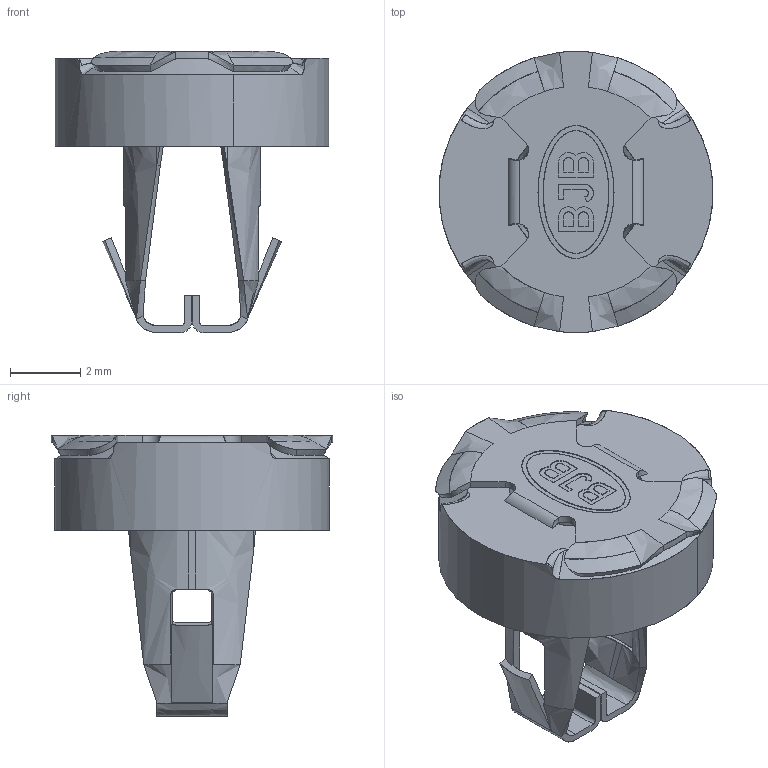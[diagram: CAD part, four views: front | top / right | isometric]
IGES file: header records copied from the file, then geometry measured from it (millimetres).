
Global section: file name: C:\coretechnologie2012\in/01VY712Y02.igs; native system: CT CoreTechnologie 3D Evolution; preprocessor: 2006; author: assmuth; date: 1130911.074620; units: millimetre
Bounding box: 7.79 x 8 x 7.99 mm (x, y, z)
Surface area: 314.8 mm2 (no closed solid volume)
Topology: 0 solids, 0 shells, 261 faces, 1448 edges, 1448 vertices
Faces by surface type: bspline 261
